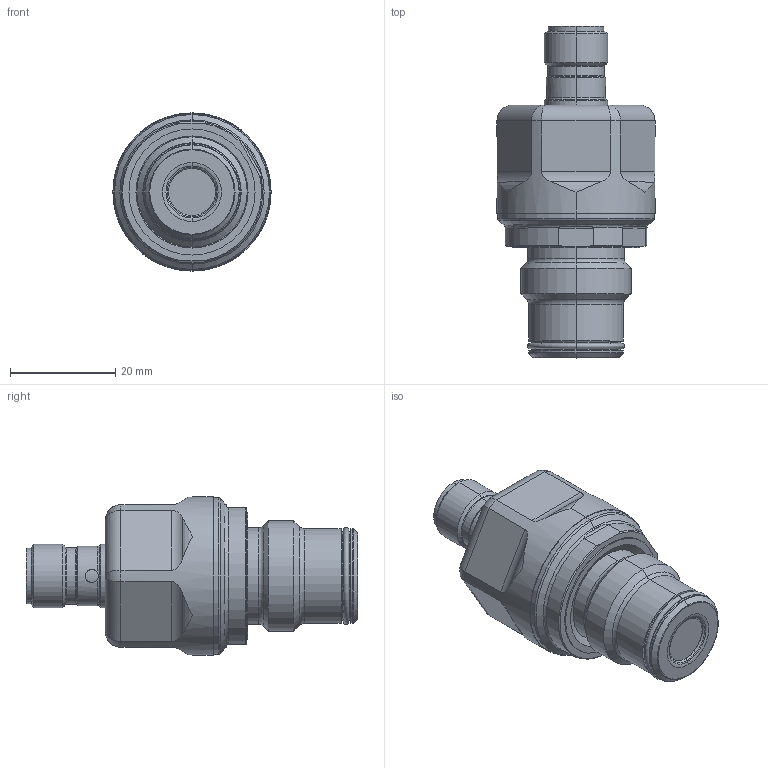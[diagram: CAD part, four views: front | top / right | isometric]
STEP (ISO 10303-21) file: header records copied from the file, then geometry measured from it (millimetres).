
FILE_DESCRIPTION (( 'STEP AP203' ), '1' );
FILE_NAME ('CAD_STP_500_0212.stp', '2024-03-15T14:24:48', ( '' ), ( '' ), 'SwSTEP 2.0', 'SolidWorks 2022', '' );
FILE_SCHEMA (( 'CONFIG_CONTROL_DESIGN' ));
Length unit declared in the file: millimetre
Products named in the file (1): CAD_STP_500_0212
Bounding box: 30 x 62.95 x 30 mm (x, y, z)
Volume: 23907.8 mm3; surface area: 5855 mm2
Topology: 1 solids, 1 shells, 151 faces, 347 edges, 210 vertices
Faces by surface type: cylinder 63, torus 34, plane 29, cone 25
Entity records: 4922 total; most frequent: CARTESIAN_POINT 1433, DIRECTION 749, ORIENTED_EDGE 694, EDGE_CURVE 347, AXIS2_PLACEMENT_3D 316, VERTEX_POINT 210, CIRCLE 164, EDGE_LOOP 163
